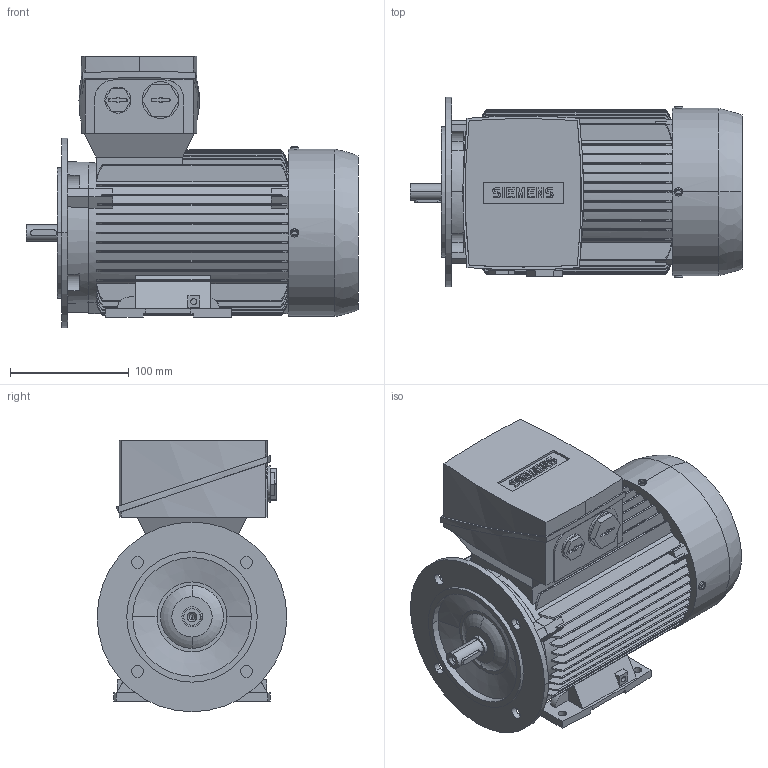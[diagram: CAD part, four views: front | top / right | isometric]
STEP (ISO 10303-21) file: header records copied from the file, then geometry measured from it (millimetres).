
FILE_DESCRIPTION(('STEP AP214'),'1');
FILE_NAME('cctmp_A4AE362B-C0C1-4700-81EE-FFA737B1215A_2021_11_4_17_40_17_366..stp','2021-11-04T16:40:17',('SIEMENS A&D'),('CADClick - www.CADClick.com'),'Spatial InterOp 3D',' ','unknown authorization');
FILE_SCHEMA(('AUTOMOTIVE_DESIGN'));
Length unit declared in the file: millimetre
Products named in the file (1): 2021_11_04__17-40-17-350
Bounding box: 280 x 160 x 229 mm (x, y, z)
Volume: 4206726.9 mm3; surface area: 361498 mm2
Topology: 1 solids, 1 shells, 737 faces, 2004 edges, 1317 vertices
Faces by surface type: plane 440, cylinder 187, torus 94, cone 16
Entity records: 33915 total; most frequent: CARTESIAN_POINT 9669, ORIENTED_EDGE 3980, DIRECTION 3576, EDGE_CURVE 1990, VERTEX_POINT 1317, AXIS2_PLACEMENT_3D 1211, LINE 1154, VECTOR 1154
